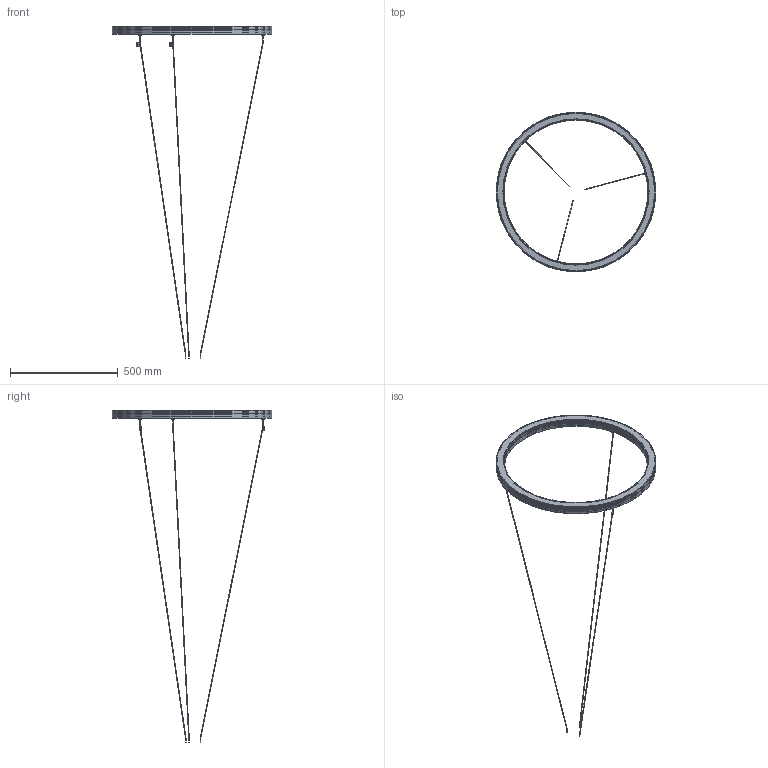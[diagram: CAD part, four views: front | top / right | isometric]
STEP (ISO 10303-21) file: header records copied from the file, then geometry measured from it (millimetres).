
FILE_DESCRIPTION(/* description */ ('Unknown'),/* implementation_level */ '2;1');
FILE_NAME(/* name */ 'TOUR_PD 29.1',/* time_stamp */ '2023-01-24T05:05:55-05:00',/* author */ ('Unknown'),/* organization */ ('Unknown'),/* preprocessor_version */ 'ST-DEVELOPER v18.1',/* originating_system */ 'Solid Edge',/* authorisation */ 'Unknown');
FILE_SCHEMA (('AUTOMOTIVE_DESIGN {1 0 10303 214 3 1 1}'));
Length unit declared in the file: millimetre
Products named in the file (1): TOUR_PD 29.1
Bounding box: 740.4 x 740.4 x 1538 mm (x, y, z)
Volume: 1077612.2 mm3; surface area: 912616.9 mm2
Topology: 3 solids, 5 shells, 336 faces, 783 edges, 488 vertices
Faces by surface type: cylinder 116, plane 110, cone 63, torus 47
Full cylindrical faces by diameter (mm): 2.8 x9, 3 x3, 3.5 x1, 4.134 x2, 12.4 x3, 666 x2, 670 x5, 670.5 x1, 672.9 x1, 691.4 x1, 700.006 x4, 700.508 x5, 705.505 x4, 706.007 x4, 706.057 x1, 714.6 x1, 719.3 x1, 726.3 x1, 731 x1, 732.2 x3, 733.1 x1, 735.5 x1, 736 x5, 740 x2
Entity records: 11048 total; most frequent: CARTESIAN_POINT 1825, DIRECTION 1422, ORIENTED_EDGE 1162, AXIS2_PLACEMENT_3D 648, EDGE_CURVE 581, FACE_BOUND 549, EDGE_LOOP 546, VERTEX_POINT 454
